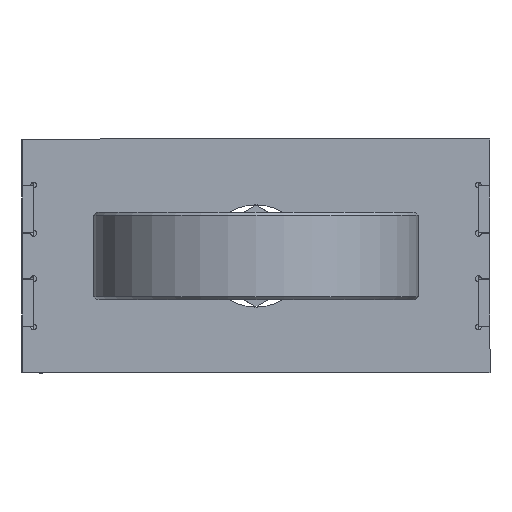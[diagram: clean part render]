
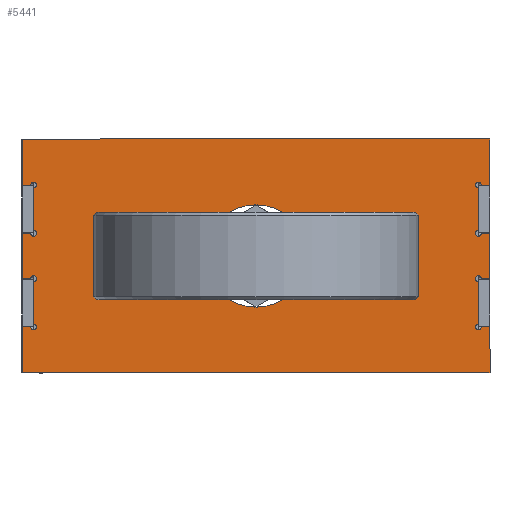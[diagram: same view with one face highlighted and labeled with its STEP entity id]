
A CAD part, front view. The second image highlights one B-rep face of the part: STEP entity #5441.
In plain terms, the highlighted planar face has unit normal (0, -1, 0) as drawn and (0, 0, -1) by its records, which use the part's own axes.
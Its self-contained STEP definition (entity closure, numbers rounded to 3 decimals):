
#373=LINE('',#9084,#804);
#376=LINE('',#9089,#807);
#378=LINE('',#9093,#809);
#381=LINE('',#9098,#812);
#383=LINE('',#9102,#814);
#386=LINE('',#9108,#817);
#389=LINE('',#9114,#820);
#390=LINE('',#9116,#821);
#391=LINE('',#9118,#822);
#392=LINE('',#9119,#823);
#393=LINE('',#9120,#824);
#394=LINE('',#9122,#825);
#395=LINE('',#9123,#826);
#396=LINE('',#9124,#827);
#397=LINE('',#9126,#828);
#398=LINE('',#9128,#829);
#399=LINE('',#9130,#830);
#400=LINE('',#9131,#831);
#401=LINE('',#9133,#832);
#402=LINE('',#9134,#833);
#804=VECTOR('',#6828,3.);
#807=VECTOR('',#6833,14.5);
#809=VECTOR('',#6837,3.);
#812=VECTOR('',#6842,14.5);
#814=VECTOR('',#6846,3.);
#817=VECTOR('',#6851,3.);
#820=VECTOR('',#6856,3.);
#821=VECTOR('',#6857,15.75);
#822=VECTOR('',#6858,160.);
#823=VECTOR('',#6859,15.75);
#824=VECTOR('',#6860,14.5);
#825=VECTOR('',#6861,3.);
#826=VECTOR('',#6862,15.5);
#827=VECTOR('',#6863,14.5);
#828=VECTOR('',#6864,3.);
#829=VECTOR('',#6865,15.75);
#830=VECTOR('',#6866,160.);
#831=VECTOR('',#6867,15.75);
#832=VECTOR('',#6868,3.);
#833=VECTOR('',#6869,15.5);
#1399=FACE_BOUND('',#2048,.T.);
#1400=FACE_BOUND('',#2049,.T.);
#1401=FACE_BOUND('',#2050,.T.);
#1641=FACE_OUTER_BOUND('',#2047,.T.);
#2047=EDGE_LOOP('',(#4422,#4423,#4424,#4425,#4426,#4427,#4428,#4429,#4430,
#4431,#4432,#4433,#4434,#4435,#4436,#4437,#4438,#4439,#4440,#4441,#4442,
#4443,#4444,#4445,#4446,#4447,#4448,#4449));
#2048=EDGE_LOOP('',(#4450));
#2049=EDGE_LOOP('',(#4451));
#2050=EDGE_LOOP('',(#4452));
#2296=CIRCLE('',#5819,5.5);
#2298=CIRCLE('',#5822,5.5);
#2299=CIRCLE('',#5824,17.5);
#2302=CIRCLE('',#5828,1.);
#2304=CIRCLE('',#5831,1.);
#2306=CIRCLE('',#5834,1.);
#2308=CIRCLE('',#5837,1.);
#2310=CIRCLE('',#5840,1.);
#2312=CIRCLE('',#5843,1.);
#2314=CIRCLE('',#5846,1.);
#2316=CIRCLE('',#5849,1.);
#2656=VERTEX_POINT('',#8998);
#2658=VERTEX_POINT('',#9003);
#2659=VERTEX_POINT('',#9006);
#2662=VERTEX_POINT('',#9012);
#2664=VERTEX_POINT('',#9016);
#2666=VERTEX_POINT('',#9021);
#2668=VERTEX_POINT('',#9025);
#2670=VERTEX_POINT('',#9030);
#2672=VERTEX_POINT('',#9034);
#2674=VERTEX_POINT('',#9039);
#2676=VERTEX_POINT('',#9043);
#2678=VERTEX_POINT('',#9048);
#2680=VERTEX_POINT('',#9052);
#2682=VERTEX_POINT('',#9057);
#2684=VERTEX_POINT('',#9061);
#2686=VERTEX_POINT('',#9066);
#2688=VERTEX_POINT('',#9070);
#2690=VERTEX_POINT('',#9075);
#2692=VERTEX_POINT('',#9079);
#2693=VERTEX_POINT('',#9083);
#2695=VERTEX_POINT('',#9092);
#2697=VERTEX_POINT('',#9101);
#2699=VERTEX_POINT('',#9107);
#2701=VERTEX_POINT('',#9113);
#2702=VERTEX_POINT('',#9115);
#2703=VERTEX_POINT('',#9117);
#2704=VERTEX_POINT('',#9121);
#2705=VERTEX_POINT('',#9125);
#2706=VERTEX_POINT('',#9127);
#2707=VERTEX_POINT('',#9129);
#2708=VERTEX_POINT('',#9132);
#3269=EDGE_CURVE('',#2656,#2656,#2296,.T.);
#3271=EDGE_CURVE('',#2658,#2658,#2298,.T.);
#3272=EDGE_CURVE('',#2659,#2659,#2299,.T.);
#3277=EDGE_CURVE('',#2662,#2664,#2302,.T.);
#3281=EDGE_CURVE('',#2666,#2668,#2304,.T.);
#3285=EDGE_CURVE('',#2670,#2672,#2306,.T.);
#3289=EDGE_CURVE('',#2674,#2676,#2308,.T.);
#3293=EDGE_CURVE('',#2678,#2680,#2310,.T.);
#3297=EDGE_CURVE('',#2682,#2684,#2312,.T.);
#3301=EDGE_CURVE('',#2686,#2688,#2314,.T.);
#3305=EDGE_CURVE('',#2690,#2692,#2316,.T.);
#3306=EDGE_CURVE('',#2693,#2666,#373,.T.);
#3309=EDGE_CURVE('',#2668,#2662,#376,.T.);
#3311=EDGE_CURVE('',#2695,#2674,#378,.T.);
#3314=EDGE_CURVE('',#2676,#2670,#381,.T.);
#3316=EDGE_CURVE('',#2697,#2678,#383,.T.);
#3319=EDGE_CURVE('',#2699,#2686,#386,.T.);
#3322=EDGE_CURVE('',#2664,#2701,#389,.T.);
#3323=EDGE_CURVE('',#2701,#2702,#390,.T.);
#3324=EDGE_CURVE('',#2702,#2703,#391,.T.);
#3325=EDGE_CURVE('',#2703,#2697,#392,.T.);
#3326=EDGE_CURVE('',#2680,#2682,#393,.T.);
#3327=EDGE_CURVE('',#2684,#2704,#394,.T.);
#3328=EDGE_CURVE('',#2704,#2699,#395,.T.);
#3329=EDGE_CURVE('',#2688,#2690,#396,.T.);
#3330=EDGE_CURVE('',#2692,#2705,#397,.T.);
#3331=EDGE_CURVE('',#2705,#2706,#398,.T.);
#3332=EDGE_CURVE('',#2706,#2707,#399,.T.);
#3333=EDGE_CURVE('',#2707,#2695,#400,.T.);
#3334=EDGE_CURVE('',#2672,#2708,#401,.T.);
#3335=EDGE_CURVE('',#2708,#2693,#402,.T.);
#4422=ORIENTED_EDGE('',*,*,#3277,.T.);
#4423=ORIENTED_EDGE('',*,*,#3322,.T.);
#4424=ORIENTED_EDGE('',*,*,#3323,.T.);
#4425=ORIENTED_EDGE('',*,*,#3324,.T.);
#4426=ORIENTED_EDGE('',*,*,#3325,.T.);
#4427=ORIENTED_EDGE('',*,*,#3316,.T.);
#4428=ORIENTED_EDGE('',*,*,#3293,.T.);
#4429=ORIENTED_EDGE('',*,*,#3326,.T.);
#4430=ORIENTED_EDGE('',*,*,#3297,.T.);
#4431=ORIENTED_EDGE('',*,*,#3327,.T.);
#4432=ORIENTED_EDGE('',*,*,#3328,.T.);
#4433=ORIENTED_EDGE('',*,*,#3319,.T.);
#4434=ORIENTED_EDGE('',*,*,#3301,.T.);
#4435=ORIENTED_EDGE('',*,*,#3329,.T.);
#4436=ORIENTED_EDGE('',*,*,#3305,.T.);
#4437=ORIENTED_EDGE('',*,*,#3330,.T.);
#4438=ORIENTED_EDGE('',*,*,#3331,.T.);
#4439=ORIENTED_EDGE('',*,*,#3332,.T.);
#4440=ORIENTED_EDGE('',*,*,#3333,.T.);
#4441=ORIENTED_EDGE('',*,*,#3311,.T.);
#4442=ORIENTED_EDGE('',*,*,#3289,.T.);
#4443=ORIENTED_EDGE('',*,*,#3314,.T.);
#4444=ORIENTED_EDGE('',*,*,#3285,.T.);
#4445=ORIENTED_EDGE('',*,*,#3334,.T.);
#4446=ORIENTED_EDGE('',*,*,#3335,.T.);
#4447=ORIENTED_EDGE('',*,*,#3306,.T.);
#4448=ORIENTED_EDGE('',*,*,#3281,.T.);
#4449=ORIENTED_EDGE('',*,*,#3309,.T.);
#4450=ORIENTED_EDGE('',*,*,#3269,.T.);
#4451=ORIENTED_EDGE('',*,*,#3271,.T.);
#4452=ORIENTED_EDGE('',*,*,#3272,.T.);
#5153=PLANE('',#5856);
#5441=ADVANCED_FACE('',(#1641,#1399,#1400,#1401),#5153,.F.);
#5819=AXIS2_PLACEMENT_3D('',#8999,#6748,#6749);
#5822=AXIS2_PLACEMENT_3D('',#9004,#6754,#6755);
#5824=AXIS2_PLACEMENT_3D('',#9007,#6758,#6759);
#5828=AXIS2_PLACEMENT_3D('',#9018,#6768,#6769);
#5831=AXIS2_PLACEMENT_3D('',#9027,#6776,#6777);
#5834=AXIS2_PLACEMENT_3D('',#9036,#6784,#6785);
#5837=AXIS2_PLACEMENT_3D('',#9045,#6792,#6793);
#5840=AXIS2_PLACEMENT_3D('',#9054,#6800,#6801);
#5843=AXIS2_PLACEMENT_3D('',#9063,#6808,#6809);
#5846=AXIS2_PLACEMENT_3D('',#9072,#6816,#6817);
#5849=AXIS2_PLACEMENT_3D('',#9081,#6824,#6825);
#5856=AXIS2_PLACEMENT_3D('',#9112,#6854,#6855);
#6748=DIRECTION('center_axis',(0.,0.,1.));
#6749=DIRECTION('ref_axis',(-1.,0.,0.));
#6754=DIRECTION('center_axis',(0.,0.,1.));
#6755=DIRECTION('ref_axis',(-1.,0.,0.));
#6758=DIRECTION('center_axis',(0.,0.,1.));
#6759=DIRECTION('ref_axis',(1.,0.,0.));
#6768=DIRECTION('center_axis',(0.,0.,1.));
#6769=DIRECTION('ref_axis',(1.,0.,0.));
#6776=DIRECTION('center_axis',(0.,0.,1.));
#6777=DIRECTION('ref_axis',(1.,0.,0.));
#6784=DIRECTION('center_axis',(0.,0.,1.));
#6785=DIRECTION('ref_axis',(1.,0.,0.));
#6792=DIRECTION('center_axis',(0.,0.,1.));
#6793=DIRECTION('ref_axis',(1.,0.,0.));
#6800=DIRECTION('center_axis',(0.,0.,1.));
#6801=DIRECTION('ref_axis',(1.,0.,0.));
#6808=DIRECTION('center_axis',(0.,0.,1.));
#6809=DIRECTION('ref_axis',(1.,0.,0.));
#6816=DIRECTION('center_axis',(0.,0.,1.));
#6817=DIRECTION('ref_axis',(1.,0.,0.));
#6824=DIRECTION('center_axis',(0.,0.,1.));
#6825=DIRECTION('ref_axis',(1.,0.,0.));
#6828=DIRECTION('',(-1.,0.,0.));
#6833=DIRECTION('',(0.,-1.,0.));
#6837=DIRECTION('',(-1.,0.,0.));
#6842=DIRECTION('',(0.,-1.,0.));
#6846=DIRECTION('',(1.,0.,0.));
#6851=DIRECTION('',(1.,0.,0.));
#6854=DIRECTION('center_axis',(0.,0.,1.));
#6855=DIRECTION('ref_axis',(1.,0.,0.));
#6856=DIRECTION('',(1.,0.,0.));
#6857=DIRECTION('',(0.,-1.,0.));
#6858=DIRECTION('',(-1.,0.,0.));
#6859=DIRECTION('',(0.,1.,0.));
#6860=DIRECTION('',(0.,1.,0.));
#6861=DIRECTION('',(-1.,0.,0.));
#6862=DIRECTION('',(0.,1.,0.));
#6863=DIRECTION('',(0.,1.,0.));
#6864=DIRECTION('',(-1.,0.,0.));
#6865=DIRECTION('',(0.,1.,0.));
#6866=DIRECTION('',(1.,0.,0.));
#6867=DIRECTION('',(0.,-1.,0.));
#6868=DIRECTION('',(1.,0.,0.));
#6869=DIRECTION('',(0.,-1.,0.));
#8998=CARTESIAN_POINT('',(-34.5,0.,0.));
#8999=CARTESIAN_POINT('Origin',(-29.,0.,0.));
#9003=CARTESIAN_POINT('',(23.5,0.,0.));
#9004=CARTESIAN_POINT('Origin',(29.,0.,0.));
#9006=CARTESIAN_POINT('',(-17.5,0.,0.));
#9007=CARTESIAN_POINT('Origin',(0.,0.,0.));
#9012=CARTESIAN_POINT('',(76.,-23.25,0.));
#9016=CARTESIAN_POINT('',(77.,-24.25,0.));
#9018=CARTESIAN_POINT('Origin',(76.,-24.25,0.));
#9021=CARTESIAN_POINT('',(77.,-7.75,0.));
#9025=CARTESIAN_POINT('',(76.,-8.75,0.));
#9027=CARTESIAN_POINT('Origin',(76.,-7.75,0.));
#9030=CARTESIAN_POINT('',(76.,8.75,0.));
#9034=CARTESIAN_POINT('',(77.,7.75,0.));
#9036=CARTESIAN_POINT('Origin',(76.,7.75,0.));
#9039=CARTESIAN_POINT('',(77.,24.25,0.));
#9043=CARTESIAN_POINT('',(76.,23.25,0.));
#9045=CARTESIAN_POINT('Origin',(76.,24.25,0.));
#9048=CARTESIAN_POINT('',(-77.,-24.25,0.));
#9052=CARTESIAN_POINT('',(-76.,-23.25,0.));
#9054=CARTESIAN_POINT('Origin',(-76.,-24.25,0.));
#9057=CARTESIAN_POINT('',(-76.,-8.75,0.));
#9061=CARTESIAN_POINT('',(-77.,-7.75,0.));
#9063=CARTESIAN_POINT('Origin',(-76.,-7.75,0.));
#9066=CARTESIAN_POINT('',(-77.,7.75,0.));
#9070=CARTESIAN_POINT('',(-76.,8.75,0.));
#9072=CARTESIAN_POINT('Origin',(-76.,7.75,0.));
#9075=CARTESIAN_POINT('',(-76.,23.25,0.));
#9079=CARTESIAN_POINT('',(-77.,24.25,0.));
#9081=CARTESIAN_POINT('Origin',(-76.,24.25,0.));
#9083=CARTESIAN_POINT('',(80.,-7.75,0.));
#9084=CARTESIAN_POINT('',(80.,-7.75,0.));
#9089=CARTESIAN_POINT('',(76.,-7.75,0.));
#9092=CARTESIAN_POINT('',(80.,24.25,0.));
#9093=CARTESIAN_POINT('',(80.,24.25,0.));
#9098=CARTESIAN_POINT('',(76.,24.25,0.));
#9101=CARTESIAN_POINT('',(-80.,-24.25,0.));
#9102=CARTESIAN_POINT('',(-80.,-24.25,0.));
#9107=CARTESIAN_POINT('',(-80.,7.75,0.));
#9108=CARTESIAN_POINT('',(-80.,7.75,0.));
#9112=CARTESIAN_POINT('Origin',(0.,0.,
0.));
#9113=CARTESIAN_POINT('',(80.,-24.25,0.));
#9114=CARTESIAN_POINT('',(76.,-24.25,0.));
#9115=CARTESIAN_POINT('',(80.,-40.,0.));
#9116=CARTESIAN_POINT('',(80.,-24.25,0.));
#9117=CARTESIAN_POINT('',(-80.,-40.,0.));
#9118=CARTESIAN_POINT('',(80.,-40.,0.));
#9119=CARTESIAN_POINT('',(-80.,-40.,0.));
#9120=CARTESIAN_POINT('',(-76.,-24.25,0.));
#9121=CARTESIAN_POINT('',(-80.,-7.75,0.));
#9122=CARTESIAN_POINT('',(-76.,-7.75,0.));
#9123=CARTESIAN_POINT('',(-80.,-7.75,0.));
#9124=CARTESIAN_POINT('',(-76.,7.75,0.));
#9125=CARTESIAN_POINT('',(-80.,24.25,0.));
#9126=CARTESIAN_POINT('',(-76.,24.25,0.));
#9127=CARTESIAN_POINT('',(-80.,40.,0.));
#9128=CARTESIAN_POINT('',(-80.,24.25,0.));
#9129=CARTESIAN_POINT('',(80.,40.,0.));
#9130=CARTESIAN_POINT('',(-80.,40.,0.));
#9131=CARTESIAN_POINT('',(80.,40.,0.));
#9132=CARTESIAN_POINT('',(80.,7.75,0.));
#9133=CARTESIAN_POINT('',(76.,7.75,0.));
#9134=CARTESIAN_POINT('',(80.,7.75,0.));
